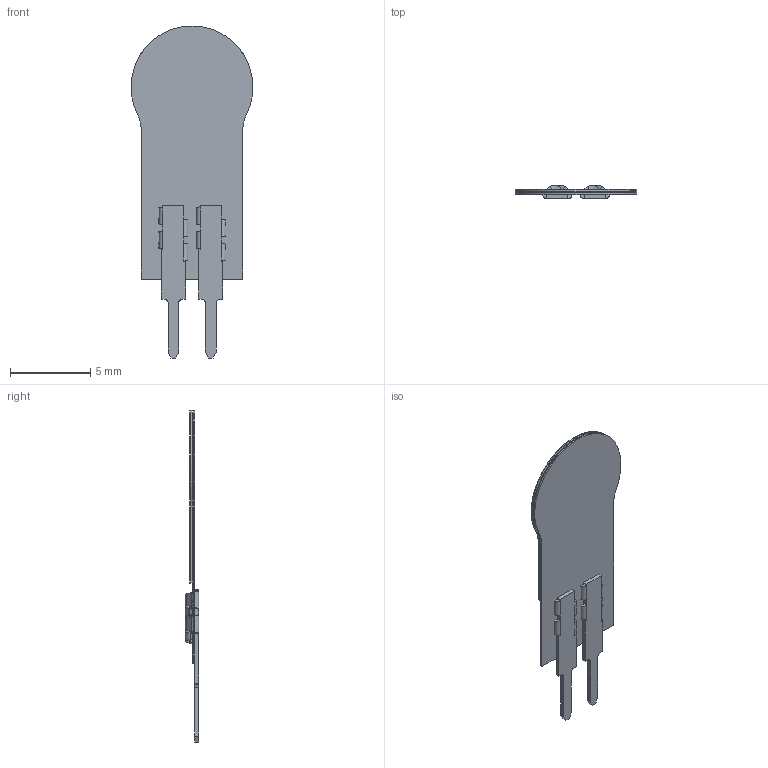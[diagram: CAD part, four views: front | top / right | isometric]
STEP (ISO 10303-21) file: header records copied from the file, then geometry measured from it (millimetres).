
FILE_DESCRIPTION (( 'STEP AP203' ), '1' );
FILE_NAME ('34-47021 FSR 400 Short Tail.STEP', '2012-09-27T23:42:09', ( '' ), ( '' ), 'SwSTEP 2.0', 'SolidWorks 2008', '' );
FILE_SCHEMA (( 'CONFIG_CONTROL_DESIGN' ));
Length unit declared in the file: millimetre
Products named in the file (8): 34-47021 FSR 400 Short Tail; SolderTab; 34-47021 Conductor Substrate; 34-47021 Conductor; 34-47021 Spacer; 34-47021 Semi; 34-47021 Semi Substrate; 34-47021 Rear Adhesive
Assembly tree (8 placements, depth 2):
  34-47021 FSR 400 Short Tail
    SolderTab  x2
    34-47021 Conductor
    34-47021 Spacer
    34-47021 Semi Substrate
    34-47021 Rear Adhesive
    34-47021 Semi
    34-47021 Conductor Substrate
Bounding box: 7.61 x 0.85 x 20.74 mm (x, y, z)
Volume: 31.5 mm3; surface area: 846.1 mm2
Topology: 28 solids, 28 shells, 585 faces, 1459 edges, 930 vertices
Faces by surface type: plane 441, cylinder 112, bspline 32
Entity records: 15676 total; most frequent: CARTESIAN_POINT 3141, ORIENTED_EDGE 2476, DIRECTION 2260, EDGE_CURVE 1238, LINE 1038, VECTOR 1038, VERTEX_POINT 804, AXIS2_PLACEMENT_3D 611
